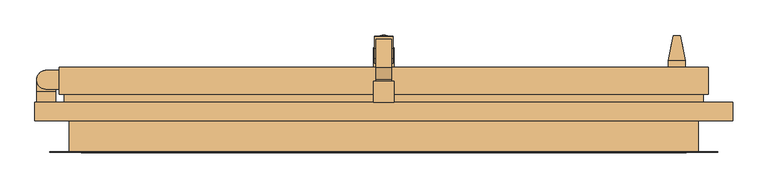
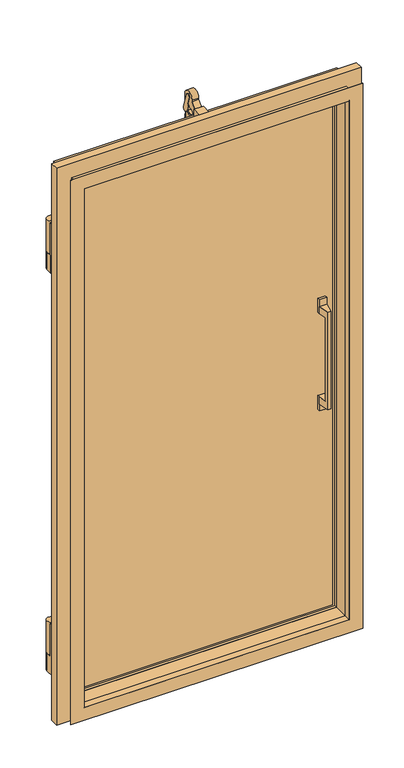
"""IFC4 building model written with IfcOpenShell, lengths in millimetres: door geometry, 冷蔵_シリウス片開き扉4方_クローザー付 : W870xH1800xt50."""

from ifc_helpers import new_model, si_unit, point, frame, frame_2d, origin, origin_with_axes, origin_2d, place, context, project, spatial, polyline, circle_curve, trimmed, segment, composite_curve, outline, extrude, faceted_brep, source, transform, mapped, element, save
from ifc_brep_helpers import plane_surface, cylinder_surface, advanced_brep


def door_d97cfcf3(model_context):
    return source(origin(), model_context, "Body", "SolidModel", [
        extrude(outline(composite_curve([segment(polyline([(125.7575082, 1889.1707894), (143.1391829, 1837.2691434)]), True, "CONTINUOUS"), segment(trimmed(circle_curve(frame_2d((133.6568058, 1834.0935294)), 10.0), [point((143.1391829, 1837.2691434))], [point((138.038682, 1825.104694))], False, "CARTESIAN"), True, "CONTINUOUS"), segment(polyline([(138.038682, 1825.104694), (126.99992, 1819.72352), (126.99992, 1830.0), (104.4778735, 1830.0), (119.44367, 1837.17143), (114.24514, 1852.69423), (121.32271, 1858.32711), (112.4852998, 1884.7156242)]), True, "CONTINUOUS"), segment(trimmed(circle_curve(frame_2d((119.1198418, 1886.9478606)), 7.0000019), [point((112.4852998, 1884.7156242))], [point((125.7575082, 1889.1707894))], False, "CARTESIAN"), True, "CONTINUOUS")], self_intersect=False)), frame((-13.25, 0.0, 0.0), z_axis=(1.0, 0.0, 0.0), x_axis=(0.0, 1.0, 0.0)), (0.0, 0.0, 1.0), 26.55),
        extrude(outline(composite_curve([segment(polyline([(81.00191, 1859.03364), (99.0, 1878.2594997), (99.0, 1882.9563633)]), True, "CONTINUOUS"), segment(trimmed(circle_curve(frame_2d((119.0008804, 1882.9563633)), 20.0008804), [point((99.0, 1882.9563633))], [point((139.0017607, 1882.9563633))], False, "CARTESIAN"), True, "CONTINUOUS"), segment(polyline([(139.0017607, 1882.9563633), (139.0017607, 1849.84567), (101.73254, 1849.84567), (80.3436039, 1832.49977), (79.00188, 1832.49977), (79.00188, 1859.03364), (81.00191, 1859.03364)]), True, "CONTINUOUS")], self_intersect=False)), frame((-11.0002, 0.0, 0.0), z_axis=(1.0, 0.0, 0.0), x_axis=(0.0, 1.0, 0.0)), (0.0, 0.0, 1.0), 22.0002),
        extrude(outline(polyline([(15.0, 79.00188), (15.0, 49.0), (-15.0, 49.0), (-15.0, 79.00188), (15.0, 79.00188)])), frame((0.0, 0.0, 1832.49977), z_axis=(0.0, 0.0, 1.0), x_axis=(1.0, 0.0, 0.0)), (0.0, 0.0, 1.0), 32.50023),
        extrude(outline(composite_curve([segment(trimmed(circle_curve(frame_2d((-484.00039, 80.99586)), 13.5), [point((-484.6329474, 67.5106877))], [point((-484.3537825, 94.4912338))], False, "CARTESIAN"), True, "CONTINUOUS"), segment(polyline([(-484.3537825, 94.4912338), (-465.0, 94.4912338), (-465.0, 67.5106877), (-484.6329474, 67.5106877)]), True, "CONTINUOUS")], self_intersect=False)), frame((0.0, 0.0, 1538.0), z_axis=(0.0, 0.0, 1.0), x_axis=(1.0, 0.0, 0.0)), (0.0, 0.0, 1.0), 113.0),
        advanced_brep(
        [(-470.4957639, 63.49586, 1538.0), (-470.4957639, 80.99586, 1538.0), (-497.4957639, 81.3492474, 1538.0), (-497.4957639, 63.49586, 1538.0), (-470.4957639, 63.49586, 1478.0), (-497.4957639, 63.49586, 1478.0), (-497.4957639, 81.3492474, 1478.0), (-470.50039, 80.99586, 1478.0)],
        [
            (0, 1),
            (1, 2, circle_curve(frame((-484.00039, 80.99586, 1538.0), z_axis=(0.0, 0.0, 1.0), x_axis=(1.0, 0.0, 0.0)), 13.5)),
            (2, 3),
            (3, 0),
            (4, 5),
            (5, 6),
            (6, 7, circle_curve(frame((-484.00039, 80.99586, 1478.0), z_axis=(0.0, 0.0, -1.0), x_axis=(1.0, 0.0, 0.0)), 13.5)),
            (7, 4),
            (0, 4),
            (7, 1),
            (2, 6),
            (5, 3),
        ],
        [
            plane_surface(frame((-470.4957639, 80.99586, 1538.0), z_axis=(0.0, 0.0, 1.0), x_axis=(0.0, 1.0, 0.0))),
            plane_surface(frame((-470.4957639, 80.99586, 1478.0), z_axis=(0.0, 0.0, -1.0), x_axis=(0.0, -1.0, 0.0))),
            plane_surface(frame((-470.4957639, 63.49586, 1538.0), z_axis=(1.0, 0.0, 0.0), x_axis=(0.0, 0.0, -1.0))),
            plane_surface(frame((-497.4957639, 81.3492474, 1538.0), z_axis=(-1.0, 0.0, 0.0), x_axis=(0.0, 0.0, -1.0))),
            plane_surface(frame((-497.4957639, 63.49586, 1538.0), z_axis=(0.0, -1.0, 0.0), x_axis=(0.0, 0.0, -1.0))),
            cylinder_surface(frame((-484.00039, 80.99586, 1478.0), z_axis=(0.0, 0.0, 1.0), x_axis=(1.0, 0.0, 0.0)), 13.5),
        ],
        [
            (0, [[1, 2, 3, 4]]),
            (1, [[5, 6, 7, 8]]),
            (2, [[-1, 9, -8, 10]]),
            (3, [[-3, 11, -6, 12]]),
            (4, [[-4, -12, -5, -9]]),
            (5, [[-2, -10, -7, -11]]),
        ],
    ),
        extrude(outline(polyline([(-470.4957639, 49.00058), (-497.4957639, 49.00058), (-497.4957639, 63.49586), (-470.4957639, 63.49586), (-470.4957639, 49.00058)])), frame((0.0, 0.0, 1478.0), z_axis=(0.0, 0.0, 1.0), x_axis=(1.0, 0.0, 0.0)), (0.0, 0.0, 1.0), 173.0),
        extrude(outline(composite_curve([segment(trimmed(circle_curve(frame_2d((-484.00039, 80.99586)), 13.5), [point((-484.6329474, 67.5106877))], [point((-484.3537825, 94.4912338))], False, "CARTESIAN"), True, "CONTINUOUS"), segment(polyline([(-484.3537825, 94.4912338), (-465.0, 94.4912338), (-465.0, 67.5106877), (-484.6329474, 67.5106877)]), True, "CONTINUOUS")], self_intersect=False)), frame((0.0, 0.0, 147.0), z_axis=(0.0, 0.0, 1.0), x_axis=(1.0, 0.0, 0.0)), (0.0, 0.0, 1.0), 113.0),
        advanced_brep(
        [(-470.4957639, 49.00058, 260.0), (-470.4957639, 63.49586, 260.0), (-497.4957639, 63.49586, 260.0), (-497.4957639, 49.00058, 260.0), (-470.4957639, 49.00058, 87.0), (-497.4957639, 49.00058, 87.0), (-497.4957639, 81.3492474, 87.0), (-470.50039, 80.99586, 87.0), (-470.4957639, 80.99586, 147.0), (-470.4957639, 63.49586, 147.0), (-497.4957639, 63.49586, 147.0), (-497.4957639, 81.3492474, 147.0)],
        [
            (0, 1),
            (1, 2),
            (2, 3),
            (3, 0),
            (4, 5),
            (5, 6),
            (6, 7, circle_curve(frame((-484.00039, 80.99586, 87.0), z_axis=(0.0, 0.0, -1.0), x_axis=(1.0, 0.0, 0.0)), 13.5)),
            (7, 4),
            (0, 4),
            (7, 8),
            (8, 9),
            (9, 1),
            (9, 10),
            (10, 2),
            (10, 11),
            (11, 6),
            (5, 3),
            (8, 11, circle_curve(frame((-484.00039, 80.99586, 147.0), z_axis=(0.0, 0.0, 1.0), x_axis=(1.0, 0.0, 0.0)), 13.5)),
        ],
        [
            plane_surface(frame((-470.4957639, 63.49586, 260.0), z_axis=(0.0, 0.0, 1.0), x_axis=(0.0, 1.0, 0.0))),
            plane_surface(frame((-470.4957639, 63.49586, 87.0), z_axis=(0.0, 0.0, -1.0), x_axis=(0.0, -1.0, 0.0))),
            plane_surface(frame((-470.4957639, 49.00058, 260.0), z_axis=(1.0, 0.0, 0.0), x_axis=(0.0, 0.0, -1.0))),
            plane_surface(frame((-470.4957639, 63.49586, 260.0), z_axis=(0.0, 1.0, 0.0), x_axis=(0.0, 0.0, -1.0))),
            plane_surface(frame((-497.4957639, 63.49586, 260.0), z_axis=(-1.0, 0.0, 0.0), x_axis=(0.0, 0.0, -1.0))),
            plane_surface(frame((-497.4957639, 49.00058, 260.0), z_axis=(0.0, -1.0, 0.0), x_axis=(0.0, 0.0, -1.0))),
            plane_surface(frame((-470.4957639, 80.99586, 147.0), z_axis=(0.0, 0.0, 1.0), x_axis=(0.0, 1.0, 0.0))),
            cylinder_surface(frame((-484.00039, 80.99586, 87.0), z_axis=(0.0, 0.0, 1.0), x_axis=(1.0, 0.0, 0.0)), 13.5),
        ],
        [
            (0, [[1, 2, 3, 4]]),
            (1, [[5, 6, 7, 8]]),
            (2, [[-1, 9, -8, 10, 11, 12]]),
            (3, [[-2, -12, 13, 14]]),
            (4, [[-3, -14, 15, 16, -6, 17]]),
            (5, [[-4, -17, -5, -9]]),
            (6, [[-11, 18, -15, -13]]),
            (7, [[-18, -10, -7, -16]]),
        ],
    ),
        faceted_brep([(451.00103, 22.0, -16.00103), (451.00103, -22.0, -16.00103), (-451.00103, -22.0, -16.00103), (-451.00103, 22.0, -16.00103), (-451.00103, -22.0, 1816.00103), (-451.00103, 22.0, 1816.00103), (451.00103, -22.0, 1816.00103), (-435.0, -22.0, 1800.0), (435.0, -22.0, 1800.0), (435.0, -22.0, 0.0), (-435.0, -22.0, 0.0), (-500.0, 22.0, -65.0), (500.0, 22.0, -65.0), (500.0, 22.0, 1865.0), (-500.0, 22.0, 1865.0), (451.00103, 22.0, 1816.00103), (500.0, 49.0, -65.0), (-500.0, 49.0, -65.0), (-500.0, 49.0, 1865.0), (500.0, 49.0, 1865.0), (-435.0, 49.0, 0.0), (435.0, 49.0, 0.0), (435.0, 49.0, 1800.0), (-435.0, 49.0, 1800.0)], [[[0, 1, 2, 3]], [[3, 2, 4, 5]], [[2, 1, 6, 4], [7, 8, 9, 10]], [[11, 12, 13, 14], [5, 15, 0, 3]], [[16, 12, 11, 17]], [[17, 11, 14, 18]], [[18, 19, 16, 17], [20, 21, 22, 23]], [[9, 21, 20, 10]], [[10, 20, 23, 7]], [[15, 6, 1, 0]], [[19, 13, 12, 16]], [[8, 22, 21, 9]], [[5, 4, 6, 15]], [[18, 14, 13, 19]], [[7, 23, 22, 8]]]),
        faceted_brep([(433.8, -23.2, 1.2), (433.8, -1.2, 1.2), (-433.8, -1.2, 1.2), (-433.8, -23.2, 1.2), (-433.8, -1.2, 1798.8), (-433.8, -23.2, 1798.8), (-435.0, -1.2, 1800.0), (435.0, -1.2, 1800.0), (435.0, -1.2, 0.0), (-435.0, -1.2, 0.0), (433.8, -1.2, 1798.8), (-479.0, -23.2, -44.0), (479.0, -23.2, -44.0), (479.0, -23.2, 1844.0), (-479.0, -23.2, 1844.0), (433.8, -23.2, 1798.8), (479.0, -22.0, -44.0), (-479.0, -22.0, -44.0), (-479.0, -22.0, 1844.0), (479.0, -22.0, 1844.0), (-435.0, -22.0, 0.0), (435.0, -22.0, 0.0), (435.0, -22.0, 1800.0), (-435.0, -22.0, 1800.0)], [[[0, 1, 2, 3]], [[3, 2, 4, 5]], [[6, 7, 8, 9], [2, 1, 10, 4]], [[11, 12, 13, 14], [5, 15, 0, 3]], [[16, 12, 11, 17]], [[17, 11, 14, 18]], [[18, 19, 16, 17], [20, 21, 22, 23]], [[8, 21, 20, 9]], [[9, 20, 23, 6]], [[15, 10, 1, 0]], [[19, 13, 12, 16]], [[7, 22, 21, 8]], [[5, 4, 10, 15]], [[18, 14, 13, 19]], [[6, 23, 22, 7]]]),
        faceted_brep([(-465.0, 60.0, 1830.0), (-465.0, 60.0, -30.0), (465.0, 60.0, -30.0), (465.0, 60.0, 1830.0), (-421.0, 60.0, 14.0), (-421.0, 60.0, 1786.0), (421.0, 60.0, 1786.0), (421.0, 60.0, 14.0), (-465.0, 99.0, 1830.0), (-465.0, 99.0, -30.0), (465.0, 99.0, -30.0), (465.0, 99.0, 1830.0), (-421.0, 49.0, 14.0), (-421.0, 49.0, 1786.0), (421.0, 49.0, 1786.0), (421.0, 49.0, 14.0)], [[[0, 1, 2, 3], [4, 5, 6, 7]], [[1, 0, 8, 9]], [[2, 1, 9, 10]], [[3, 2, 10, 11]], [[12, 13, 5, 4]], [[14, 15, 7, 6]], [[15, 12, 4, 7]], [[8, 11, 10, 9]], [[13, 12, 15, 14]], [[0, 3, 11, 8]], [[13, 14, 6, 5]]]),
        extrude(outline(polyline([(458.0, 49.00058), (-458.0, 49.00058), (-458.0, 60.0), (458.0, 60.0), (458.0, 49.00058)])), frame((0.0, 0.0, -23.0), z_axis=(0.0, 0.0, 1.0), x_axis=(1.0, 0.0, 0.0)), (0.0, 0.0, 1.0), 23.0),
        extrude(outline(composite_curve([segment(trimmed(circle_curve(origin_2d(), 3.3), [point((0.0, 3.3))], [point((0.0, -3.3))], False, "CARTESIAN"), True, "CONTINUOUS"), segment(trimmed(circle_curve(origin_2d(), 3.3), [point((0.0, -3.3))], [point((0.0, 3.3))], False, "CARTESIAN"), True, "CONTINUOUS")], self_intersect=False)), frame((0.0, 132.3677798, 1812.7778233), z_axis=(0.0, 0.15424646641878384, 0.9880324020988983), x_axis=(1.0, 0.0, 0.0)), (0.0, 0.0, 1.0), 17.4307812),
        extrude(outline(composite_curve([segment(trimmed(circle_curve(origin_2d(), 13.0), [point((0.0, 13.0000001))], [point((0.0, -13.0))], False, "CARTESIAN"), True, "CONTINUOUS"), segment(trimmed(circle_curve(origin_2d(), 13.0), [point((0.0, -13.0))], [point((0.0, 13.0000001))], False, "CARTESIAN"), True, "CONTINUOUS")], self_intersect=False)), frame((0.0, 119.1948076, 1728.3977812), z_axis=(0.0, 0.15424646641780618, 0.988032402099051), x_axis=(1.0, 0.0, 0.0)), (0.0, 0.0, 1.0), 85.4021002),
        extrude(outline(polyline([(15.0, 126.99992), (15.0, 99.0), (-15.0, 99.0), (-15.0, 126.99992), (15.0, 126.99992)])), frame((0.0, 0.0, 1723.99998), z_axis=(0.0, 0.0, 1.0), x_axis=(1.0, 0.0, 0.0)), (0.0, 0.0, 1.0), 106.00002),
        faceted_brep([(391.9448833, 14.0, 756.1), (391.9448833, 14.0, 1043.88815), (397.00063, 40.0021943, 1043.88815), (397.00063, 40.0021943, 1069.5093), (390.0005294, 4.0, 1069.5093), (390.0005294, 4.0, 730.5), (397.00063, 40.0021943, 730.5), (397.00063, 40.0021943, 756.1), (379.9994306, 4.0, 1069.5093), (379.9994306, 4.0, 730.5), (378.0550767, 14.0, 1043.88815), (378.0550767, 14.0, 756.1), (372.99933, 40.0021943, 756.1), (372.99933, 40.0021943, 730.5), (372.99933, 40.0021943, 1069.5093), (372.99933, 40.0021943, 1043.88815), (372.99933, 49.0, 1043.88815), (397.00063, 49.0, 1043.88815), (372.99933, 40.0021943, 1092.51065), (372.99933, 49.0, 1092.51065), (397.00063, 49.0, 1092.51065), (397.00063, 40.0021943, 1092.51065), (397.00063, 49.0, 756.1), (372.99933, 49.0, 756.1), (372.99933, 49.0, 707.5), (372.99933, 40.0021943, 707.5), (397.00063, 49.0, 707.5), (397.00063, 40.0021943, 707.5)], [[[0, 1, 2, 3, 4, 5, 6, 7]], [[4, 8, 9, 5]], [[10, 11, 12, 13, 9, 8, 14, 15]], [[1, 0, 11, 10]], [[14, 8, 4, 3]], [[15, 16, 17, 2, 1, 10]], [[16, 15, 14, 18, 19]], [[17, 16, 19, 20]], [[2, 17, 20, 21, 3]], [[19, 18, 21, 20]], [[21, 18, 14, 3]], [[6, 5, 9, 13]], [[7, 22, 23, 12, 11, 0]], [[12, 23, 24, 25, 13]], [[24, 23, 22, 26]], [[26, 22, 7, 6, 27]], [[24, 26, 27, 25]], [[25, 27, 6, 13]]]),
        faceted_brep([(407.99933, 99.0, 707.5), (407.99933, 107.9978057, 707.5), (432.00063, 107.9978057, 707.5), (432.00063, 99.0, 707.5), (407.99933, 99.0, 756.1), (407.99933, 107.9978057, 756.1), (407.99933, 107.9978057, 730.5), (432.00063, 99.0, 756.1), (432.00063, 107.9978057, 730.5), (432.00063, 107.9978057, 756.1), (414.9994306, 144.0, 730.5), (425.0005294, 144.0, 730.5), (426.9448833, 134.0, 756.1), (413.0550767, 134.0, 756.1), (425.0005294, 144.0, 1069.5093), (432.00063, 107.9978057, 1069.5093), (432.00063, 107.9978057, 1043.88815), (426.9448833, 134.0, 1043.88815), (414.9994306, 144.0, 1069.5093), (413.0550767, 134.0, 1043.88815), (407.99933, 107.9978057, 1043.88815), (407.99933, 107.9978057, 1069.5093), (432.00063, 99.0, 1043.88815), (407.99933, 99.0, 1043.88815), (407.99933, 99.0, 1092.51065), (407.99933, 107.9978057, 1092.51065), (432.00063, 99.0, 1092.51065), (432.00063, 107.9978057, 1092.51065)], [[[0, 1, 2, 3]], [[1, 0, 4, 5, 6]], [[0, 3, 7, 4]], [[3, 2, 8, 9, 7]], [[2, 1, 6, 8]], [[6, 10, 11, 8]], [[5, 4, 7, 9, 12, 13]], [[8, 11, 14, 15, 16, 17, 12, 9]], [[14, 11, 10, 18]], [[18, 10, 6, 5, 13, 19, 20, 21]], [[15, 14, 18, 21]], [[16, 22, 23, 20, 19, 17]], [[20, 23, 24, 25, 21]], [[23, 22, 26, 24]], [[22, 16, 15, 27, 26]], [[24, 26, 27, 25]], [[25, 27, 15, 21]], [[12, 17, 19, 13]]]),
        extrude(outline(polyline([(-458.0, 49.0), (-458.0, 60.0), (-435.0, 60.0), (-435.0, 49.0), (-458.0, 49.0)])), origin_with_axes(), (0.0, 0.0, 1.0), 1800.0),
        extrude(outline(polyline([(458.0, 49.0), (435.0, 49.0), (435.0, 60.0), (458.0, 60.0), (458.0, 49.0)])), origin_with_axes(), (0.0, 0.0, 1.0), 1800.0),
        extrude(outline(polyline([(-458.0, 49.0), (-458.0, 60.0), (458.0, 60.0), (458.0, 49.0), (-458.0, 49.0)])), frame((0.0, 0.0, 1800.0), z_axis=(0.0, 0.0, 1.0), x_axis=(1.0, 0.0, 0.0)), (0.0, 0.0, 1.0), 23.0),
    ])


if __name__ == "__main__":
    model = new_model("IFC4")
    model_context = context("Model", 3, world=origin())
    ifc_project = project(units=[si_unit("LENGTHUNIT", "METRE", prefix="MILLI")], contexts=[model_context])
    site = spatial("IfcSite", under=ifc_project)
    building = spatial("IfcBuilding", under=site)
    placement = place(None, origin())
    door_shape = door_d97cfcf3(model_context)
    element("IfcDoor", 1, ObjectType="冷蔵_シリウス片開き扉4方_クローザー付 : W870xH1800xt50", at=placement, inside=building, context=model_context, shape_type="MappedRepresentation", body=[
        mapped(door_shape, transform((0.0, 0.0, 0.0), x_axis=(1.0, 0.0, 0.0), y_axis=(0.0, 1.0, 0.0), z_axis=(0.0, 0.0, 1.0))),
    ])
    save(model, "model.ifc")
